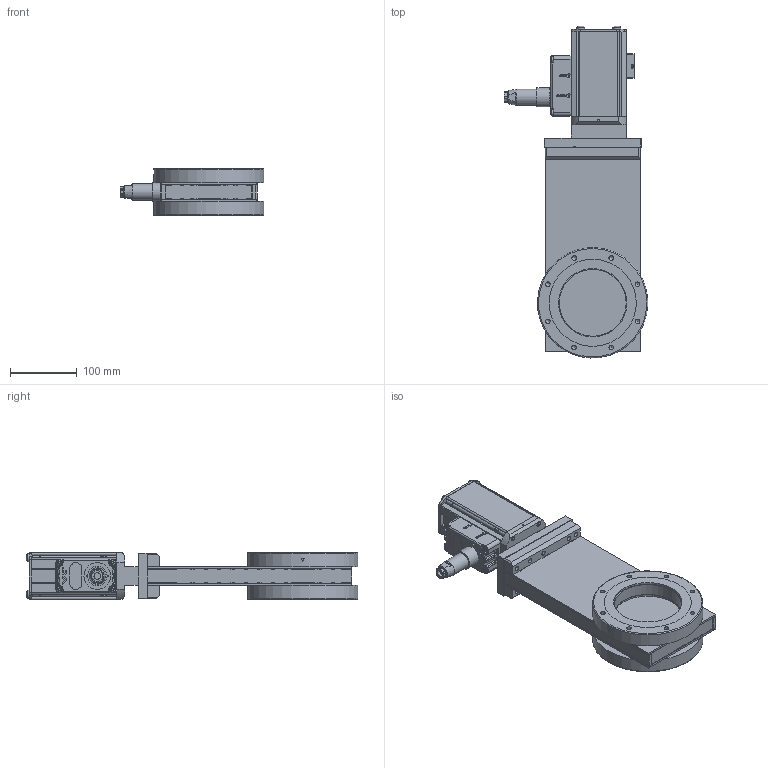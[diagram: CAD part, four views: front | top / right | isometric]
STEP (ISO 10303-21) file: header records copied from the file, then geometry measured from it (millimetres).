
FILE_DESCRIPTION(/* description */ (''),/* implementation_level */ '2;1');
FILE_NAME(/* name */ '1031226927_203.stp',/* time_stamp */ '2021-11-11T11:28:40+01:00',/* author */ (''),/* organization */ (''),/* preprocessor_version */ 'ST-DEVELOPER v16.7',/* originating_system */ 'SIEMENS PLM Software NX 1915',/* authorisation */ '');
FILE_SCHEMA (('AP203_CONFIGURATION_CONTROLLED_3D_DESIGN_OF_MECHANICAL_PARTS_AND_ASSEMBLIES_MIM_LF { 1 0 10303 403 2 1 2}'));
Products named in the file (45): 500156; 800510; 387037; 800510_30042ID; 70986-01.1; N-6240-008.1; N-6195-007.2; 71055-01.1; n-6011-049.1; 70973-01.1; 840726_29710ID; 840726_30002ID; 840731_30001ID; 840731_30000ID; 840738_29998ID; 840727_29996ID; 840727_29994ID; n-6024-526; N-7100-014_2.1; 94828-01.1; N-7100-012_3.1; 70988-01.1; n-8504-002; n-6024-548.1; 70987-01.1; 23549-01.1; 23549-01.1_29972ID; n-6099-454.1; N-6024-571.1; 85948-01.1; 94222-01.1; 73003-01.1; 218198.1; 501138; 348352.1; 918673; 94827-r1.1; 73638-r1.1; 387036_MODELNX-ARRAGMNTMikroschalter neue Höhe; 387035_MODEL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
Assembly tree (69 placements, depth 5):
  1076573
    94235-R1.2
      73003-01.1  x4
      94222-01.1
      85948-01.1
      N-6024-571.1  x4
    212153.4
      212039.7
        840727_29994ID
        840727_29996ID
        840738_29998ID
        840731_30000ID
        840731_30001ID
        840726_30002ID
        840726_29710ID
      n-6099-454.1  x2
      23549-01.1_29972ID
      23549-01.1
    387044_MODEL
      387035_MODEL
        70973-01.1
        n-6011-049.1  x2
        387036_MODELNX-ARRAGMNTMikroschalter neue Höhe
          800510_30042ID
          387037
          800510
          500156
      73638-r1.1
        71055-01.1  x4
        N-6195-007.2  x4
        N-6240-008.1  x2
        70986-01.1
      70987-01.1
      n-6024-548.1  x4
      n-8504-002
      70988-01.1  x2
    94827-r1.1
      N-7100-012_3.1
      94828-01.1
      N-7100-014_2.1
      n-6024-526  x2
    918673
    348352.1
    501138
    218198.1  x6
Bounding box: 214.93 x 496.29 x 70 mm (x, y, z)
Volume: 1770061.5 mm3; surface area: 579780.3 mm2
Topology: 169 solids, 169 shells, 3489 faces, 8912 edges, 6059 vertices
Faces by surface type: plane 2301, cylinder 772, torus 165, cone 133, extrusion 61, bspline 40, sphere 17
Full cylindrical faces by diameter (mm): 0.7 x1, 1 x7, 1.1 x14, 1.5 x11, 1.6 x14, 1.66 x7, 1.97 x4, 2 x30, 2.125 x1, 2.265 x2, 2.46 x2, 2.5 x27, 2.65 x1, 2.8 x2, 3 x7, 3.3 x6, 3.4 x2, 3.5 x1, 4 x10, 4.2 x3, 4.35 x4, 4.4 x4, 4.45 x4, 4.5 x2, 4.625 x4, 4.75 x8, 5 x6, 5.2 x4, 5.9 x1, 6 x15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
Entity records: 108985 total; most frequent: CARTESIAN_POINT 32460, ORIENTED_EDGE 14234, DIRECTION 13743, EDGE_CURVE 7117, VERTEX_POINT 5153, AXIS2_PLACEMENT_3D 4583, VECTOR 4577, LINE 4516
